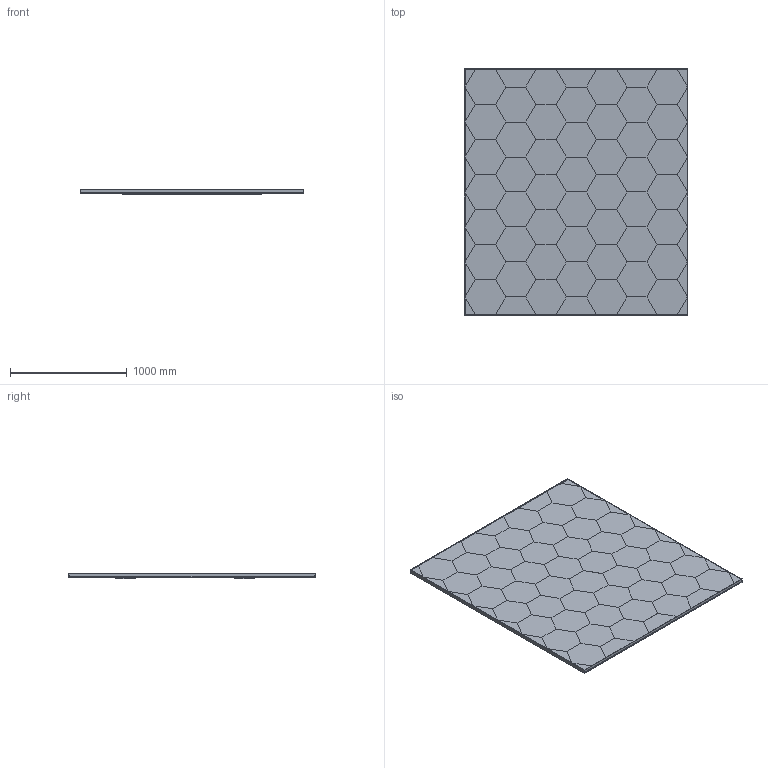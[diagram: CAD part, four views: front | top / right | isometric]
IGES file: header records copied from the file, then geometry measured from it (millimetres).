
Start section: SolidWorks IGES file using analytic representation for surfaces
Global section: file name: \\UTENTI\Dati Utenti\Tecnico\DC\2D - 3D per sito\3D\DeCastelli-3D-Hexagon.igs; native system: SolidWorks 2022; preprocessor: SolidWorks 2022; author: Silviad; date: 240711.172600; units: millimetre
Bounding box: 1915 x 2111 x 46 mm (x, y, z)
Surface area: 9204588.3 mm2 (no closed solid volume)
Topology: 0 solids, 0 shells, 203 faces, 4215 edges, 4215 vertices
Faces by surface type: bspline 149, revolution 54
